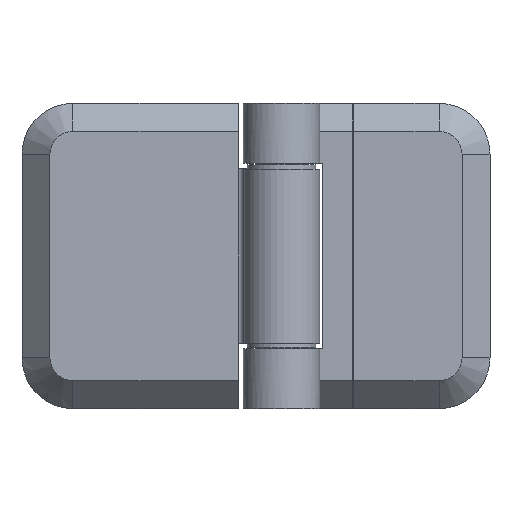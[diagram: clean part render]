
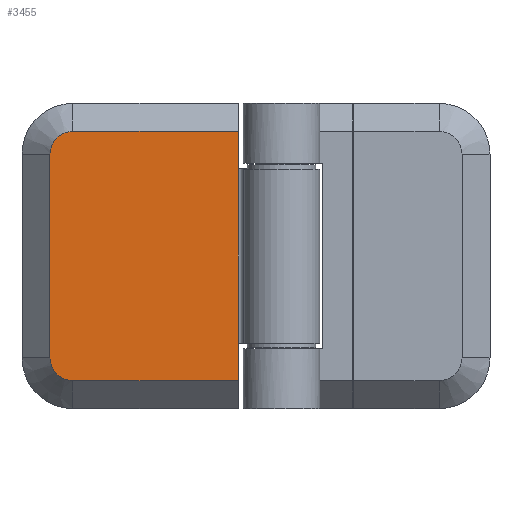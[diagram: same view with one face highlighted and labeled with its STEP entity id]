
A CAD part, front view. The second image highlights one B-rep face of the part: STEP entity #3455.
In plain terms, the highlighted planar face has unit normal (0, -1, 0).
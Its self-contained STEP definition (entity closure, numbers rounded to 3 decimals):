
#133=CIRCLE('',#4573,4.5);
#134=CIRCLE('',#4574,4.5);
#664=ORIENTED_EDGE('',*,*,#1393,.T.);
#665=ORIENTED_EDGE('',*,*,#1394,.T.);
#666=ORIENTED_EDGE('',*,*,#1395,.F.);
#667=ORIENTED_EDGE('',*,*,#1396,.T.);
#668=ORIENTED_EDGE('',*,*,#1397,.F.);
#669=ORIENTED_EDGE('',*,*,#1398,.F.);
#670=ORIENTED_EDGE('',*,*,#1399,.T.);
#671=ORIENTED_EDGE('',*,*,#1400,.T.);
#672=ORIENTED_EDGE('',*,*,#1401,.T.);
#673=ORIENTED_EDGE('',*,*,#1402,.T.);
#1393=EDGE_CURVE('',#1797,#1798,#133,.F.);
#1394=EDGE_CURVE('',#1798,#1799,#2174,.T.);
#1395=EDGE_CURVE('',#1800,#1799,#2175,.T.);
#1396=EDGE_CURVE('',#1800,#1801,#2176,.T.);
#1397=EDGE_CURVE('',#1802,#1801,#2177,.T.);
#1398=EDGE_CURVE('',#1803,#1802,#2178,.T.);
#1399=EDGE_CURVE('',#1803,#1804,#2179,.T.);
#1400=EDGE_CURVE('',#1804,#1805,#2180,.T.);
#1401=EDGE_CURVE('',#1805,#1806,#134,.F.);
#1402=EDGE_CURVE('',#1806,#1797,#2181,.T.);
#1797=VERTEX_POINT('',#6258);
#1798=VERTEX_POINT('',#6259);
#1799=VERTEX_POINT('',#6261);
#1800=VERTEX_POINT('',#6263);
#1801=VERTEX_POINT('',#6265);
#1802=VERTEX_POINT('',#6267);
#1803=VERTEX_POINT('',#6269);
#1804=VERTEX_POINT('',#6271);
#1805=VERTEX_POINT('',#6273);
#1806=VERTEX_POINT('',#6275);
#2174=LINE('',#6260,#2540);
#2175=LINE('',#6262,#2541);
#2176=LINE('',#6264,#2542);
#2177=LINE('',#6266,#2543);
#2178=LINE('',#6268,#2544);
#2179=LINE('',#6270,#2545);
#2180=LINE('',#6272,#2546);
#2181=LINE('',#6276,#2547);
#2540=VECTOR('',#5209,1000.);
#2541=VECTOR('',#5210,1000.);
#2542=VECTOR('',#5211,1000.);
#2543=VECTOR('',#5212,1000.);
#2544=VECTOR('',#5213,1000.);
#2545=VECTOR('',#5214,1000.);
#2546=VECTOR('',#5215,1000.);
#2547=VECTOR('',#5218,1000.);
#2802=EDGE_LOOP('',(#664,#665,#666,#667,#668,#669,#670,#671,#672,#673));
#3063=FACE_BOUND('',#2802,.T.);
#3300=PLANE('',#4572);
#3455=ADVANCED_FACE('',(#3063),#3300,.F.);
#4572=AXIS2_PLACEMENT_3D('',#6256,#5205,#5206);
#4573=AXIS2_PLACEMENT_3D('',#6257,#5207,#5208);
#4574=AXIS2_PLACEMENT_3D('',#6274,#5216,#5217);
#5205=DIRECTION('',(0.,1.,0.));
#5206=DIRECTION('',(-1.,0.,0.));
#5207=DIRECTION('',(0.,1.,0.));
#5208=DIRECTION('',(-1.,0.,0.));
#5209=DIRECTION('',(1.,0.,0.));
#5210=DIRECTION('',(0.,0.,-1.));
#5211=DIRECTION('',(1.,0.,0.));
#5212=DIRECTION('',(0.,0.,-1.));
#5213=DIRECTION('',(1.,0.,0.));
#5214=DIRECTION('',(0.,0.,1.));
#5215=DIRECTION('',(-1.,0.,0.));
#5216=DIRECTION('',(0.,1.,0.));
#5217=DIRECTION('',(-1.,0.,0.));
#5218=DIRECTION('',(0.,0.,-1.));
#6256=CARTESIAN_POINT('',(-51.,0.3,30.));
#6257=CARTESIAN_POINT('',(-41.,0.3,-20.));
#6258=CARTESIAN_POINT('',(-45.5,0.3,-20.));
#6259=CARTESIAN_POINT('',(-41.,0.3,-24.5));
#6260=CARTESIAN_POINT('',(-51.,0.3,-24.5));
#6261=CARTESIAN_POINT('',(-8.5,0.3,-24.5));
#6262=CARTESIAN_POINT('',(-8.5,0.3,30.));
#6263=CARTESIAN_POINT('',(-8.5,0.3,-17.2));
#6264=CARTESIAN_POINT('',(-51.,0.3,-17.2));
#6265=CARTESIAN_POINT('',(-8.471,0.3,-17.2));
#6266=CARTESIAN_POINT('',(-8.471,0.3,30.));
#6267=CARTESIAN_POINT('',(-8.471,0.3,17.2));
#6268=CARTESIAN_POINT('',(-51.,0.3,17.2));
#6269=CARTESIAN_POINT('',(-8.5,0.3,17.2));
#6270=CARTESIAN_POINT('',(-8.5,0.3,30.));
#6271=CARTESIAN_POINT('',(-8.5,0.3,24.5));
#6272=CARTESIAN_POINT('',(-41.,0.3,24.5));
#6273=CARTESIAN_POINT('',(-41.,0.3,24.5));
#6274=CARTESIAN_POINT('',(-41.,0.3,20.));
#6275=CARTESIAN_POINT('',(-45.5,0.3,20.));
#6276=CARTESIAN_POINT('',(-45.5,0.3,30.));
